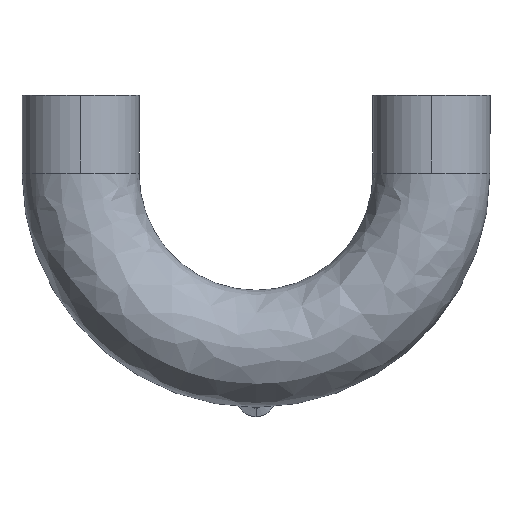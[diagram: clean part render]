
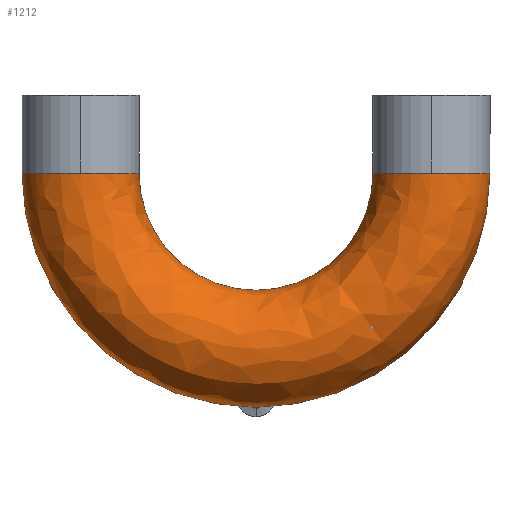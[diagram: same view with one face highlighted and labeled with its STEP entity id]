
A CAD part, top view. The second image highlights one B-rep face of the part: STEP entity #1212.
In plain terms, the highlighted free-form (B-spline) face has degree [3, 3] with [4, 4] control points.
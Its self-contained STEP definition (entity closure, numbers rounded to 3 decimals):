
#15 = CIRCLE ( 'NONE', #1498, 38.1 ) ;
#33 = DIRECTION ( 'NONE',  ( 1., 0., 0. ) ) ;
#40 = AXIS2_PLACEMENT_3D ( 'NONE', #442, #1002, #59 ) ;
#59 = DIRECTION ( 'NONE',  ( -1., 0., 0. ) ) ;
#85 = CARTESIAN_POINT ( 'NONE',  ( 152.4, -190.5, 76.2 ) ) ;
#109 = ORIENTED_EDGE ( 'NONE', *, *, #1191, .T. ) ;
#156 = EDGE_CURVE ( 'NONE', #942, #320, #634, .T. ) ;
#180 = AXIS2_PLACEMENT_3D ( 'NONE', #416, #429, #33 ) ;
#213 = CARTESIAN_POINT ( 'NONE',  ( -152.4, 114.3, 76.2 ) ) ;
#320 = VERTEX_POINT ( 'NONE', #945 ) ;
#347 = CARTESIAN_POINT ( 'NONE',  ( 76.2, -38.1, 76.2 ) ) ;
#354 = VERTEX_POINT ( 'NONE', #1041 ) ;
#378 = DIRECTION ( 'NONE',  ( 0., 0., -1. ) ) ;
#393 = DIRECTION ( 'NONE',  ( -1., 0., 0. ) ) ;
#416 = CARTESIAN_POINT ( 'NONE',  ( 114.3, 114.3, 0. ) ) ;
#429 = DIRECTION ( 'NONE',  ( 0., -1., 0. ) ) ;
#442 = CARTESIAN_POINT ( 'NONE',  ( -114.3, 114.3, 0. ) ) ;
#449 = EDGE_CURVE ( 'NONE', #354, #1422, #1083, .T. ) ;
#470 = CARTESIAN_POINT ( 'NONE',  ( -114.3, 114.3, 0. ) ) ;
#471 =( BOUNDED_SURFACE ( )  B_SPLINE_SURFACE ( 3, 3, ( 
 ( #1060, #1347, #778, #1759 ),
 ( #923, #85, #1068, #213 ),
 ( #1218, #347, #1356, #485 ),
 ( #1495, #638, #1644, #783 ) ),
 .UNSPECIFIED., .F., .F., .T. ) 
 B_SPLINE_SURFACE_WITH_KNOTS ( ( 4, 4 ),
 ( 4, 4 ),
 ( 0., 1. ),
 ( 0., 1. ),
 .UNSPECIFIED. ) 
 GEOMETRIC_REPRESENTATION_ITEM ( )  RATIONAL_B_SPLINE_SURFACE ( (
 ( 1., 0.333, 0.333, 1.),
 ( 0.333, 0.111, 0.111, 0.333),
 ( 0.333, 0.111, 0.111, 0.333),
 ( 1., 0.333, 0.333, 1.) ) ) 
 REPRESENTATION_ITEM ( '' )  SURFACE ( )  );
#485 = CARTESIAN_POINT ( 'NONE',  ( -76.2, 114.3, 76.2 ) ) ;
#506 = CARTESIAN_POINT ( 'NONE',  ( 114.3, 114.3, 0. ) ) ;
#529 = DIRECTION ( 'NONE',  ( 0., 0., -1. ) ) ;
#540 = AXIS2_PLACEMENT_3D ( 'NONE', #470, #1483, #627 ) ;
#565 = EDGE_CURVE ( 'NONE', #1595, #320, #1750, .T. ) ;
#627 = DIRECTION ( 'NONE',  ( -1., 0., 0. ) ) ;
#634 = CIRCLE ( 'NONE', #40, 38.1 ) ;
#638 = CARTESIAN_POINT ( 'NONE',  ( 76.2, -38.1, 0. ) ) ;
#660 = DIRECTION ( 'NONE',  ( 1., 0., 0. ) ) ;
#679 = CIRCLE ( 'NONE', #994, 76.2 ) ;
#763 = VERTEX_POINT ( 'NONE', #1261 ) ;
#778 = CARTESIAN_POINT ( 'NONE',  ( -152.4, -190.5, 0. ) ) ;
#781 = ORIENTED_EDGE ( 'NONE', *, *, #449, .T. ) ;
#783 = CARTESIAN_POINT ( 'NONE',  ( -76.2, 114.3, 0. ) ) ;
#807 = DIRECTION ( 'NONE',  ( 0., 0., -1. ) ) ;
#841 = CIRCLE ( 'NONE', #540, 38.1 ) ;
#850 = AXIS2_PLACEMENT_3D ( 'NONE', #1393, #529, #393 ) ;
#854 = EDGE_LOOP ( 'NONE', ( #781, #1435, #109, #1034, #1572, #1398, #1511 ) ) ;
#923 = CARTESIAN_POINT ( 'NONE',  ( 152.4, 114.3, 76.2 ) ) ;
#942 = VERTEX_POINT ( 'NONE', #1671 ) ;
#945 = CARTESIAN_POINT ( 'NONE',  ( -152.4, 114.3, 0. ) ) ;
#994 = AXIS2_PLACEMENT_3D ( 'NONE', #1659, #807, #1783 ) ;
#1002 = DIRECTION ( 'NONE',  ( 0., -1., 0. ) ) ;
#1034 = ORIENTED_EDGE ( 'NONE', *, *, #156, .T. ) ;
#1041 = CARTESIAN_POINT ( 'NONE',  ( 114.3, 114.3, 38.1 ) ) ;
#1060 = CARTESIAN_POINT ( 'NONE',  ( 152.4, 114.3, 0. ) ) ;
#1068 = CARTESIAN_POINT ( 'NONE',  ( -152.4, -190.5, 76.2 ) ) ;
#1083 = CIRCLE ( 'NONE', #180, 38.1 ) ;
#1101 = CARTESIAN_POINT ( 'NONE',  ( 0., -38.1, 0. ) ) ;
#1191 = EDGE_CURVE ( 'NONE', #1477, #942, #841, .T. ) ;
#1212 = ADVANCED_FACE ( 'NONE', ( #1273 ), #471, .T. ) ;
#1218 = CARTESIAN_POINT ( 'NONE',  ( 76.2, 114.3, 76.2 ) ) ;
#1257 = CARTESIAN_POINT ( 'NONE',  ( 0., 114.3, 0. ) ) ;
#1261 = CARTESIAN_POINT ( 'NONE',  ( 152.4, 114.3, 0. ) ) ;
#1273 = FACE_OUTER_BOUND ( 'NONE', #854, .T. ) ;
#1286 = AXIS2_PLACEMENT_3D ( 'NONE', #1257, #378, #1389 ) ;
#1291 = EDGE_CURVE ( 'NONE', #763, #354, #15, .T. ) ;
#1347 = CARTESIAN_POINT ( 'NONE',  ( 152.4, -190.5, 0. ) ) ;
#1356 = CARTESIAN_POINT ( 'NONE',  ( -76.2, -38.1, 76.2 ) ) ;
#1360 = CARTESIAN_POINT ( 'NONE',  ( -76.2, 114.3, 0. ) ) ;
#1389 = DIRECTION ( 'NONE',  ( -1., 0., 0. ) ) ;
#1393 = CARTESIAN_POINT ( 'NONE',  ( 0., 114.3, 0. ) ) ;
#1398 = ORIENTED_EDGE ( 'NONE', *, *, #1604, .F. ) ;
#1422 = VERTEX_POINT ( 'NONE', #1733 ) ;
#1435 = ORIENTED_EDGE ( 'NONE', *, *, #1577, .T. ) ;
#1477 = VERTEX_POINT ( 'NONE', #1360 ) ;
#1483 = DIRECTION ( 'NONE',  ( 0., -1., 0. ) ) ;
#1495 = CARTESIAN_POINT ( 'NONE',  ( 76.2, 114.3, 0. ) ) ;
#1498 = AXIS2_PLACEMENT_3D ( 'NONE', #506, #1522, #660 ) ;
#1511 = ORIENTED_EDGE ( 'NONE', *, *, #1291, .T. ) ;
#1522 = DIRECTION ( 'NONE',  ( 0., -1., 0. ) ) ;
#1572 = ORIENTED_EDGE ( 'NONE', *, *, #565, .F. ) ;
#1577 = EDGE_CURVE ( 'NONE', #1422, #1477, #679, .T. ) ;
#1595 = VERTEX_POINT ( 'NONE', #1101 ) ;
#1604 = EDGE_CURVE ( 'NONE', #763, #1595, #1710, .T. ) ;
#1644 = CARTESIAN_POINT ( 'NONE',  ( -76.2, -38.1, 0. ) ) ;
#1659 = CARTESIAN_POINT ( 'NONE',  ( 0., 114.3, 0. ) ) ;
#1671 = CARTESIAN_POINT ( 'NONE',  ( -114.3, 114.3, 38.1 ) ) ;
#1710 = CIRCLE ( 'NONE', #1286, 152.4 ) ;
#1733 = CARTESIAN_POINT ( 'NONE',  ( 76.2, 114.3, 0. ) ) ;
#1750 = CIRCLE ( 'NONE', #850, 152.4 ) ;
#1759 = CARTESIAN_POINT ( 'NONE',  ( -152.4, 114.3, 0. ) ) ;
#1783 = DIRECTION ( 'NONE',  ( -1., 0., 0. ) ) ;
